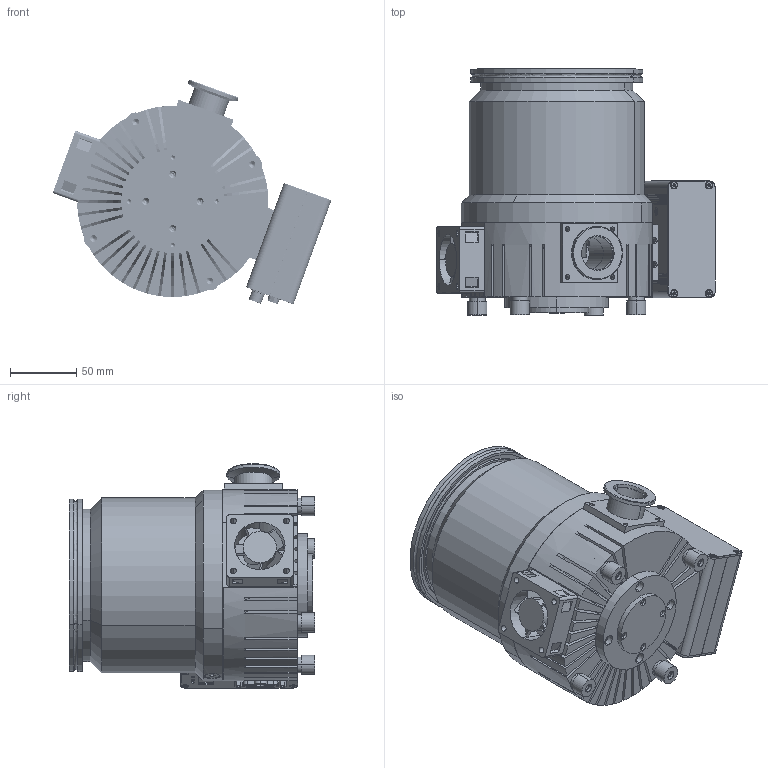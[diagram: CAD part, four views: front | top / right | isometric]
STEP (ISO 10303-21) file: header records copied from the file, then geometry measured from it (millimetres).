
FILE_DESCRIPTION (( 'STEP AP203' ), '1' );
FILE_NAME ('JTFB-300煦赽掙圉棠-24-5-1824-7-1524-8-29.STEP', '2025-03-31T10:13:17', ( 'User' ), ( 'China' ), 'SwSTEP 2.0', 'SolidWorks 2016', '' );
FILE_SCHEMA (( 'CONFIG_CONTROL_DESIGN' ));
Length unit declared in the file: millimetre
Products named in the file (13): JTFB-300虯-圉棠-24-5-1824-7-1524-8-29; JTFB-300-萇埭嘐隅啣圉棠-24-5-1824-7-1524-8-29; JTFB-300萇埭嘐隅啣1圉棠-24-5-1824-7-1524-8-29; JTFB-300分子泵（半磁）M8螺栓24-5-1824-7-1524-8-29; JTFB-300掙极-圉棠-24-5-1824-7-1524-8-29; JTFB-300圉棠菁裔24-5-1824-7-1524-8-29; JTFB-300掙褲-圉棠-24-5-1824-7-1524-8-29; JTFB300-23fljq24-4-1124-7-1524-8-29; JTFB-300綴裔 瑞濮B圉棠-24-5-1824-7-1524-8-29; MP24D-BR1圉棠-24-5-1824-7-1524-8-29; JTFB-300虯蝶杶B圉棠-24-5-1824-7-1524-8-29; JTFB-300煦赽掙圉棠-24-5-1824-7-1524-8-29; SDB0524MB瑞圮圉棠-24-5-1824-7-1524-8-29
Assembly tree (18 placements, depth 2):
  JTFB-300煦赽掙圉棠-24-5-1824-7-1524-8-29
    JTFB-300掙极-圉棠-24-5-1824-7-1524-8-29
    JTFB-300掙褲-圉棠-24-5-1824-7-1524-8-29
    JTFB-300綴裔 瑞濮B圉棠-24-5-1824-7-1524-8-29
    JTFB-300虯蝶杶B圉棠-24-5-1824-7-1524-8-29  x4
    SDB0524MB瑞圮圉棠-24-5-1824-7-1524-8-29
    JTFB-300虯-圉棠-24-5-1824-7-1524-8-29  x4
    JTFB-300-萇埭嘐隅啣圉棠-24-5-1824-7-1524-8-29
    JTFB-300萇埭嘐隅啣1圉棠-24-5-1824-7-1524-8-29
    JTFB-300分子泵（半磁）M8螺栓24-5-1824-7-1524-8-29
    JTFB-300圉棠菁裔24-5-1824-7-1524-8-29
    JTFB300-23fljq24-4-1124-7-1524-8-29
    MP24D-BR1圉棠-24-5-1824-7-1524-8-29
Bounding box: 209.9 x 185.3 x 169.19 mm (x, y, z)
Volume: 1269675.5 mm3; surface area: 388089.1 mm2
Topology: 18 solids, 56 shells, 2545 faces, 6844 edges, 4444 vertices
Faces by surface type: cylinder 1251, plane 542, bspline 407, cone 315, sphere 30
Entity records: 204952 total; most frequent: CARTESIAN_POINT 146386, ORIENTED_EDGE 13014, DIRECTION 10842, EDGE_CURVE 6522, VERTEX_POINT 4295, AXIS2_PLACEMENT_3D 4027, EDGE_LOOP 2792, VECTOR 2788
